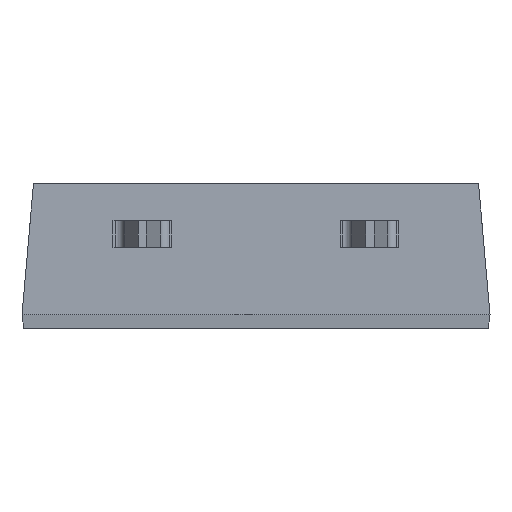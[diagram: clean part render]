
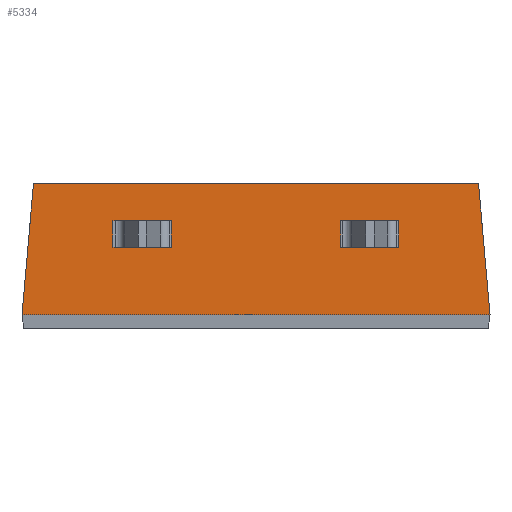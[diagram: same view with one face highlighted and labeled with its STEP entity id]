
A CAD part, front view. The second image highlights one B-rep face of the part: STEP entity #5334.
In plain terms, the highlighted planar face has unit normal (0, -1, 0).
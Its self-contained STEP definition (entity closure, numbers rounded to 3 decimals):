
#167=LINE('',#7024,#578);
#231=LINE('',#7783,#642);
#237=LINE('',#7795,#648);
#238=LINE('',#7797,#649);
#239=LINE('',#7800,#650);
#240=LINE('',#7802,#651);
#241=LINE('',#7804,#652);
#242=LINE('',#7805,#653);
#243=LINE('',#7808,#654);
#244=LINE('',#7810,#655);
#245=LINE('',#7812,#656);
#246=LINE('',#7813,#657);
#578=VECTOR('',#5927,1000.);
#642=VECTOR('',#6037,1000.);
#648=VECTOR('',#6047,1000.);
#649=VECTOR('',#6050,1000.);
#650=VECTOR('',#6051,1000.);
#651=VECTOR('',#6052,1000.);
#652=VECTOR('',#6053,1000.);
#653=VECTOR('',#6054,1000.);
#654=VECTOR('',#6055,1000.);
#655=VECTOR('',#6056,1000.);
#656=VECTOR('',#6057,1000.);
#657=VECTOR('',#6058,1000.);
#937=PLANE('',#5568);
#1519=ORIENTED_EDGE('',*,*,#2424,.F.);
#1520=ORIENTED_EDGE('',*,*,#2425,.F.);
#1521=ORIENTED_EDGE('',*,*,#2426,.F.);
#1522=ORIENTED_EDGE('',*,*,#2427,.T.);
#1523=ORIENTED_EDGE('',*,*,#2428,.F.);
#1524=ORIENTED_EDGE('',*,*,#2429,.F.);
#1525=ORIENTED_EDGE('',*,*,#2430,.F.);
#1526=ORIENTED_EDGE('',*,*,#2431,.T.);
#1527=ORIENTED_EDGE('',*,*,#2417,.T.);
#1528=ORIENTED_EDGE('',*,*,#2325,.T.);
#1529=ORIENTED_EDGE('',*,*,#2423,.F.);
#1530=ORIENTED_EDGE('',*,*,#2432,.F.);
#2325=EDGE_CURVE('',#2823,#2822,#167,.T.);
#2417=EDGE_CURVE('',#2888,#2823,#231,.T.);
#2423=EDGE_CURVE('',#2891,#2822,#237,.T.);
#2424=EDGE_CURVE('',#2892,#2893,#238,.T.);
#2425=EDGE_CURVE('',#2894,#2892,#239,.T.);
#2426=EDGE_CURVE('',#2895,#2894,#240,.T.);
#2427=EDGE_CURVE('',#2895,#2893,#241,.T.);
#2428=EDGE_CURVE('',#2896,#2897,#242,.T.);
#2429=EDGE_CURVE('',#2898,#2896,#243,.T.);
#2430=EDGE_CURVE('',#2899,#2898,#244,.T.);
#2431=EDGE_CURVE('',#2899,#2897,#245,.T.);
#2432=EDGE_CURVE('',#2888,#2891,#246,.T.);
#2822=VERTEX_POINT('',#7023);
#2823=VERTEX_POINT('',#7025);
#2888=VERTEX_POINT('',#7784);
#2891=VERTEX_POINT('',#7794);
#2892=VERTEX_POINT('',#7798);
#2893=VERTEX_POINT('',#7799);
#2894=VERTEX_POINT('',#7801);
#2895=VERTEX_POINT('',#7803);
#2896=VERTEX_POINT('',#7806);
#2897=VERTEX_POINT('',#7807);
#2898=VERTEX_POINT('',#7809);
#2899=VERTEX_POINT('',#7811);
#3209=EDGE_LOOP('',(#1519,#1520,#1521,#1522));
#3210=EDGE_LOOP('',(#1523,#1524,#1525,#1526));
#3211=EDGE_LOOP('',(#1527,#1528,#1529,#1530));
#3498=FACE_BOUND('',#3209,.T.);
#3499=FACE_BOUND('',#3210,.T.);
#3500=FACE_BOUND('',#3211,.T.);
#5334=ADVANCED_FACE('',(#3498,#3499,#3500),#937,.F.);
#5568=AXIS2_PLACEMENT_3D('',#7796,#6048,#6049);
#5927=DIRECTION('',(-1.,0.,0.));
#6037=DIRECTION('',(-0.087,0.,0.996));
#6047=DIRECTION('',(0.087,0.,0.996));
#6048=DIRECTION('',(0.,1.,0.));
#6049=DIRECTION('',(0.,0.,1.));
#6050=DIRECTION('',(1.,0.,0.));
#6051=DIRECTION('',(0.,0.,-1.));
#6052=DIRECTION('',(-1.,0.,0.));
#6053=DIRECTION('',(0.,0.,-1.));
#6054=DIRECTION('',(-1.,0.,0.));
#6055=DIRECTION('',(0.,0.,1.));
#6056=DIRECTION('',(1.,0.,0.));
#6057=DIRECTION('',(0.,0.,1.));
#6058=DIRECTION('',(-1.,0.,0.));
#7023=CARTESIAN_POINT('',(89.885,-14.737,43.472));
#7024=CARTESIAN_POINT('',(100.07,-14.737,43.472));
#7025=CARTESIAN_POINT('',(99.815,-14.737,43.472));
#7783=CARTESIAN_POINT('',(100.07,-14.737,40.552));
#7784=CARTESIAN_POINT('',(100.07,-14.737,40.552));
#7794=CARTESIAN_POINT('',(89.63,-14.737,40.552));
#7795=CARTESIAN_POINT('',(89.63,-14.737,40.552));
#7796=CARTESIAN_POINT('',(100.07,-14.737,40.552));
#7797=CARTESIAN_POINT('',(-102.,-14.737,42.053));
#7798=CARTESIAN_POINT('',(91.66,-14.737,42.053));
#7799=CARTESIAN_POINT('',(92.96,-14.737,42.053));
#7800=CARTESIAN_POINT('',(91.66,-14.737,247.303));
#7801=CARTESIAN_POINT('',(91.66,-14.737,42.653));
#7802=CARTESIAN_POINT('',(-102.,-14.737,42.653));
#7803=CARTESIAN_POINT('',(92.96,-14.737,42.653));
#7804=CARTESIAN_POINT('',(92.96,-14.737,247.303));
#7805=CARTESIAN_POINT('',(-102.,-14.737,42.653));
#7806=CARTESIAN_POINT('',(98.04,-14.737,42.653));
#7807=CARTESIAN_POINT('',(96.74,-14.737,42.653));
#7808=CARTESIAN_POINT('',(98.04,-14.737,250.432));
#7809=CARTESIAN_POINT('',(98.04,-14.737,42.053));
#7810=CARTESIAN_POINT('',(-102.,-14.737,42.053));
#7811=CARTESIAN_POINT('',(96.74,-14.737,42.053));
#7812=CARTESIAN_POINT('',(96.74,-14.737,247.303));
#7813=CARTESIAN_POINT('',(100.07,-14.737,40.552));
